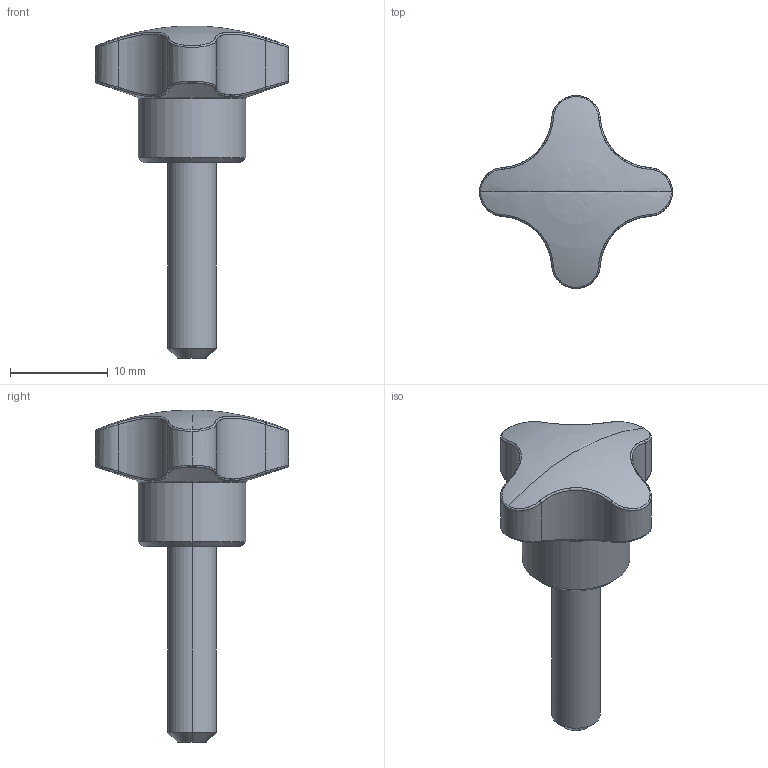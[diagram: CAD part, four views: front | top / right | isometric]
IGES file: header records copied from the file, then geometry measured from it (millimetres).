
Start section: SolidWorks IGES file using analytic representation for surfaces
Global section: file name: C:\Users\Marc\Documents\2 ENGINYERIA\Catalogo 3D\IGS STEP DXF\1121 20 522.IGS; native system: SolidWorks 2010; preprocessor: SolidWorks 2010; author: Marc; date: 101126.163659; units: millimetre
Bounding box: 19.77 x 19.77 x 34 mm (x, y, z)
Surface area: 1476.2 mm2 (no closed solid volume)
Topology: 0 solids, 0 shells, 63 faces, 749 edges, 748 vertices
Faces by surface type: bspline 35, revolution 28
